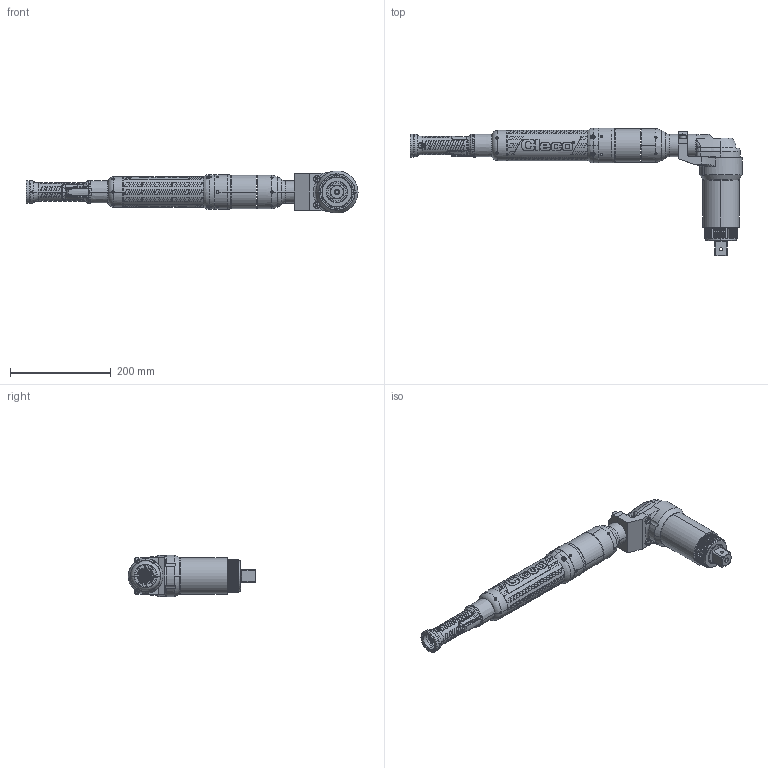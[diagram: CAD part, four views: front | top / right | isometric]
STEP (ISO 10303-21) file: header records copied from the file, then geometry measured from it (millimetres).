
FILE_DESCRIPTION((''),'2;1');
FILE_NAME('70EAN800TA8MT_SW0002','2021-07-14T',('E2E42'),(''),'CREO PARAMETRIC BY PTC INC, 2016050','CREO PARAMETRIC BY PTC INC, 2016050','');
FILE_SCHEMA(('CONFIG_CONTROL_DESIGN'));
Length unit declared in the file: millimetre
Products named in the file (1): 70EAN800TA8MT_SW0002
Bounding box: 658.89 x 253.4 x 83.33 mm (x, y, z)
Surface area: 210157.8 mm2 (no closed solid volume)
Topology: 0 solids, 256 shells, 2430 faces, 10786 edges, 8412 vertices
Faces by surface type: bspline 898, cylinder 677, plane 290, extrusion 227, cone 176, torus 152, sphere 10
Entity records: 184122 total; most frequent: CARTESIAN_POINT 111040, ORIENTED_EDGE 14484, DIRECTION 11567, EDGE_CURVE 10766, VERTEX_POINT 8412, B_SPLINE_CURVE_WITH_KNOTS 5236, AXIS2_PLACEMENT_3D 4278, VECTOR 3011
